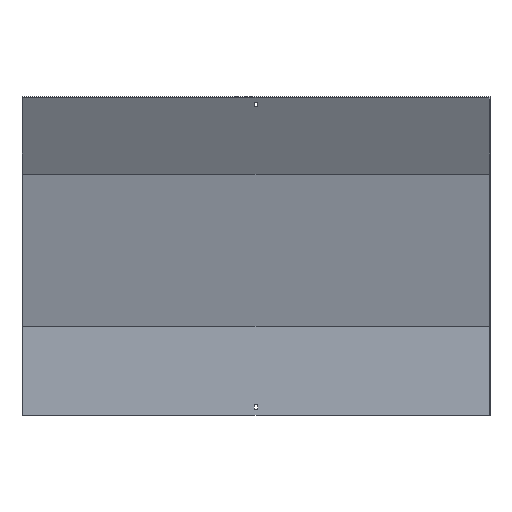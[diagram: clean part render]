
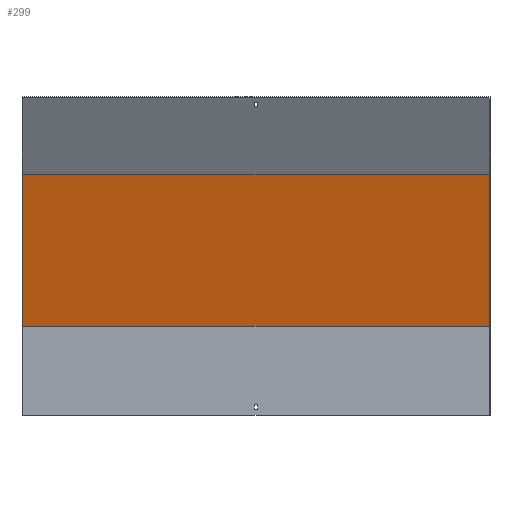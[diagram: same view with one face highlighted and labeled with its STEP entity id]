
A CAD part, front view. The second image highlights one B-rep face of the part: STEP entity #299.
In plain terms, the highlighted planar face has unit normal (0, -0.966, -0.259).
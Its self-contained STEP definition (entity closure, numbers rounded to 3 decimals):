
#49 = CARTESIAN_POINT ( 'NONE',  ( 451.5, 18.5, 172.436 ) ) ;
#55 = DIRECTION ( 'NONE',  ( -1., 0., 0. ) ) ;
#80 = LINE ( 'NONE', #735, #449 ) ;
#120 = VECTOR ( 'NONE', #382, 1000. ) ;
#121 = PLANE ( 'NONE',  #772 ) ;
#153 = EDGE_CURVE ( 'NONE', #374, #275, #506, .T. ) ;
#190 = FACE_OUTER_BOUND ( 'NONE', #462, .T. ) ;
#204 = EDGE_CURVE ( 'NONE', #767, #275, #507, .T. ) ;
#226 = EDGE_CURVE ( 'NONE', #810, #767, #385, .T. ) ;
#275 = VERTEX_POINT ( 'NONE', #320 ) ;
#276 = CARTESIAN_POINT ( 'NONE',  ( 450., -59.889, 464.987 ) ) ;
#278 = VECTOR ( 'NONE', #55, 1000. ) ;
#299 = ADVANCED_FACE ( 'NONE', ( #190 ), #121, .T. ) ;
#320 = CARTESIAN_POINT ( 'NONE',  ( -450., -59.889, 464.987 ) ) ;
#327 = DIRECTION ( 'NONE',  ( 0., 0.259, -0.966 ) ) ;
#330 = ORIENTED_EDGE ( 'NONE', *, *, #204, .F. ) ;
#374 = VERTEX_POINT ( 'NONE', #276 ) ;
#382 = DIRECTION ( 'NONE',  ( 0., -0.259, 0.966 ) ) ;
#385 = LINE ( 'NONE', #49, #816 ) ;
#440 = CARTESIAN_POINT ( 'NONE',  ( -450., 60.37, 16.176 ) ) ;
#449 = VECTOR ( 'NONE', #795, 1000. ) ;
#450 = CARTESIAN_POINT ( 'NONE',  ( 451.5, 17.87, 174.788 ) ) ;
#462 = EDGE_LOOP ( 'NONE', ( #330, #823, #485, #666 ) ) ;
#485 = ORIENTED_EDGE ( 'NONE', *, *, #791, .T. ) ;
#489 = CARTESIAN_POINT ( 'NONE',  ( -450., 18.5, 172.436 ) ) ;
#506 = LINE ( 'NONE', #845, #278 ) ;
#507 = LINE ( 'NONE', #440, #120 ) ;
#544 = CARTESIAN_POINT ( 'NONE',  ( 450., 18.5, 172.436 ) ) ;
#647 = DIRECTION ( 'NONE',  ( -1., 0., 0. ) ) ;
#666 = ORIENTED_EDGE ( 'NONE', *, *, #153, .T. ) ;
#712 = DIRECTION ( 'NONE',  ( 0., -0.966, -0.259 ) ) ;
#735 = CARTESIAN_POINT ( 'NONE',  ( 450., 60.37, 16.176 ) ) ;
#767 = VERTEX_POINT ( 'NONE', #489 ) ;
#772 = AXIS2_PLACEMENT_3D ( 'NONE', #450, #712, #327 ) ;
#791 = EDGE_CURVE ( 'NONE', #810, #374, #80, .T. ) ;
#795 = DIRECTION ( 'NONE',  ( 0., -0.259, 0.966 ) ) ;
#810 = VERTEX_POINT ( 'NONE', #544 ) ;
#816 = VECTOR ( 'NONE', #647, 1000. ) ;
#823 = ORIENTED_EDGE ( 'NONE', *, *, #226, .F. ) ;
#845 = CARTESIAN_POINT ( 'NONE',  ( 451.5, -59.889, 464.987 ) ) ;
